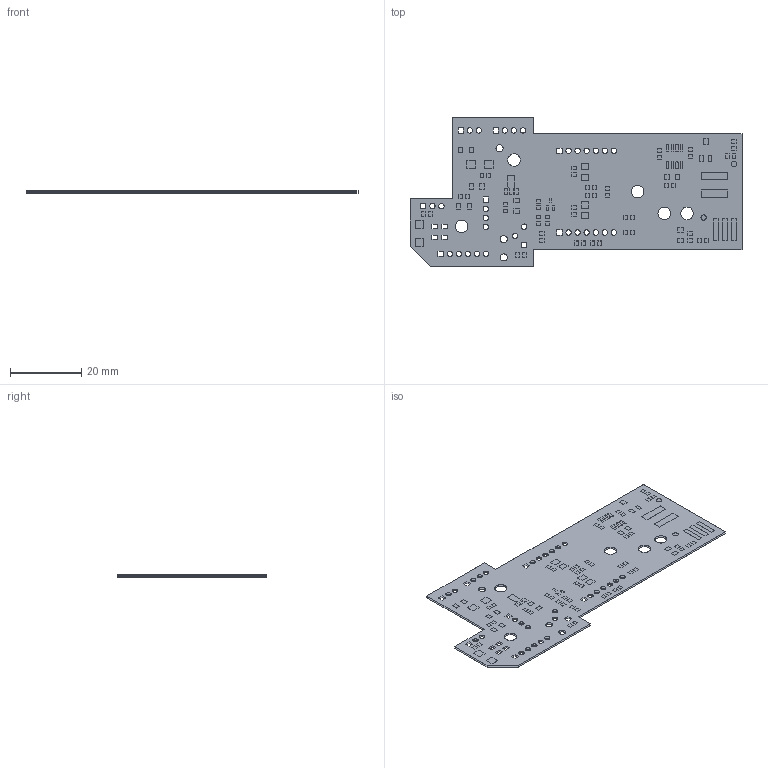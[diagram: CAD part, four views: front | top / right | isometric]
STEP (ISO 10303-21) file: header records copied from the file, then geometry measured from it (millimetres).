
FILE_DESCRIPTION(('None'),'2;1');
FILE_NAME('LPC_PD_POWER(rev_0.1)_221026_Soldermask.step', '', (' '), ('Mentor Graphics'), '', 'Expedition PCB', ' ');
FILE_SCHEMA(('CONFIG_CONTROL_DESIGN'));
Length unit declared in the file: millimetre
Products named in the file (1): LPC_PD_POWER(rev_0.1)_221026_Soldermask
Bounding box: 92.97 x 41.85 x 0.58 mm (x, y, z)
Volume: 71.6 mm3; surface area: 11293.9 mm2
Topology: 2 solids, 2 shells, 690 faces, 2058 edges, 1372 vertices
Faces by surface type: plane 494, cylinder 196
Entity records: 21506 total; most frequent: ORIENTED_EDGE 4116, DIRECTION 3832, EDGE_CURVE 2058, CARTESIAN_POINT 1765, LINE 1666, VECTOR 1666, VERTEX_POINT 1372, AXIS2_PLACEMENT_3D 1083
